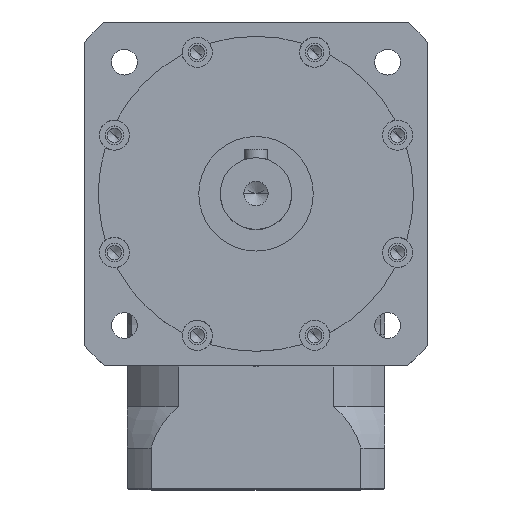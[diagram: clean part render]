
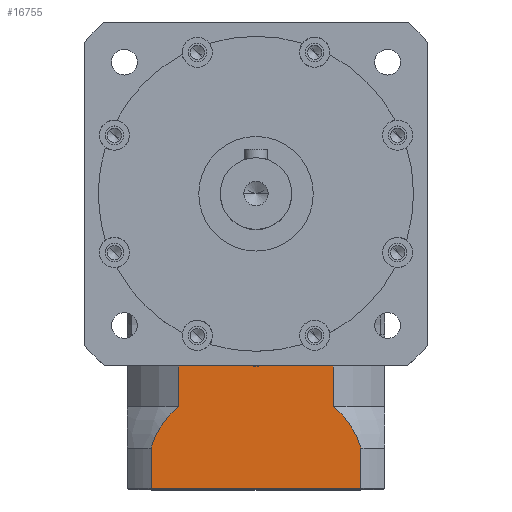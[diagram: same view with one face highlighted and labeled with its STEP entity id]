
A CAD part, top view. The second image highlights one B-rep face of the part: STEP entity #16755.
In plain terms, the highlighted planar face has unit normal (0, 0, 1).
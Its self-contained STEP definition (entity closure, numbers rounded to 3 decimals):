
#874 = EDGE_CURVE ( 'NONE', #33113, #13285, #37348, .T. ) ;
#1661 = LINE ( 'NONE', #38717, #4364 ) ;
#2441 = ORIENTED_EDGE ( 'NONE', *, *, #14095, .T. ) ;
#2799 = CARTESIAN_POINT ( 'NONE',  ( 72.042, -54., -4. ) ) ;
#4077 = ORIENTED_EDGE ( 'NONE', *, *, #15511, .T. ) ;
#4087 = VERTEX_POINT ( 'NONE', #15546 ) ;
#4364 = VECTOR ( 'NONE', #20679, 1000. ) ;
#4694 = VERTEX_POINT ( 'NONE', #35356 ) ;
#4775 = CARTESIAN_POINT ( 'NONE',  ( 60.177, -31.789, -4. ) ) ;
#5127 = VECTOR ( 'NONE', #9799, 1000. ) ;
#5167 = CARTESIAN_POINT ( 'NONE',  ( 54.083, -25., -4. ) ) ;
#5558 = LINE ( 'NONE', #17704, #34843 ) ;
#6041 = DIRECTION ( 'NONE',  ( 0., 0., 1. ) ) ;
#6873 = CARTESIAN_POINT ( 'NONE',  ( -1.166, -25.963, -4. ) ) ;
#6924 = CARTESIAN_POINT ( 'NONE',  ( 63.634, -39.5, -4. ) ) ;
#7209 = CARTESIAN_POINT ( 'NONE',  ( 0., -30.265, -4. ) ) ;
#8009 = CARTESIAN_POINT ( 'NONE',  ( 60.048, -31.593, -4. ) ) ;
#8215 = CARTESIAN_POINT ( 'NONE',  ( 62.519, -36.036, -4. ) ) ;
#9799 = DIRECTION ( 'NONE',  ( 0., 1., 0. ) ) ;
#9831 = ORIENTED_EDGE ( 'NONE', *, *, #22753, .T. ) ;
#13285 = VERTEX_POINT ( 'NONE', #6924 ) ;
#14095 = EDGE_CURVE ( 'NONE', #29703, #4087, #1661, .T. ) ;
#14863 = DIRECTION ( 'NONE',  ( 0., 1., 0. ) ) ;
#14916 = B_SPLINE_CURVE_WITH_KNOTS ( 'NONE', 3,
 ( #34624, #6873, #25899, #16803, #31569, #37869, #22462, #31765, #32393, #35640, #38878, #26101, #20453 ),
 .UNSPECIFIED., .F., .F.,
 ( 4, 1, 1, 1, 1, 1, 2, 2, 4 ),
 ( 0., 0.25, 0.375, 0.437, 0.469, 0.484, 0.492, 0.5, 1. ),
 .UNSPECIFIED. ) ;
#15388 = ORIENTED_EDGE ( 'NONE', *, *, #27347, .T. ) ;
#15511 = EDGE_CURVE ( 'NONE', #27607, #29703, #14916, .T. ) ;
#15546 = CARTESIAN_POINT ( 'NONE',  ( -9.551, -53.5, -4. ) ) ;
#16114 = LINE ( 'NONE', #7209, #22842 ) ;
#16755 = ADVANCED_FACE ( 'NONE', ( #25039 ), #39655, .T. ) ;
#16803 = CARTESIAN_POINT ( 'NONE',  ( -4.42, -29.443, -4. ) ) ;
#16908 = CARTESIAN_POINT ( 'NONE',  ( 63.634, -39.5, -4. ) ) ;
#17319 = CARTESIAN_POINT ( 'NONE',  ( 56.412, -26.923, -4. ) ) ;
#17427 = ORIENTED_EDGE ( 'NONE', *, *, #19986, .T. ) ;
#17704 = CARTESIAN_POINT ( 'NONE',  ( 54.083, -30.265, -4. ) ) ;
#17920 = CARTESIAN_POINT ( 'NONE',  ( 63.634, -53.5, -4. ) ) ;
#19986 = EDGE_CURVE ( 'NONE', #4694, #27233, #20853, .T. ) ;
#20154 = CARTESIAN_POINT ( 'NONE',  ( 60.355, -32.065, -4. ) ) ;
#20367 = CARTESIAN_POINT ( 'NONE',  ( 60.021, -31.553, -4. ) ) ;
#20453 = CARTESIAN_POINT ( 'NONE',  ( -9.551, -39.5, -4. ) ) ;
#20599 = ORIENTED_EDGE ( 'NONE', *, *, #874, .T. ) ;
#20679 = DIRECTION ( 'NONE',  ( 0., -1., 0. ) ) ;
#20764 = LINE ( 'NONE', #17920, #39051 ) ;
#20853 = LINE ( 'NONE', #30559, #33327 ) ;
#21248 = ORIENTED_EDGE ( 'NONE', *, *, #35333, .T. ) ;
#22092 = ORIENTED_EDGE ( 'NONE', *, *, #27480, .T. ) ;
#22462 = CARTESIAN_POINT ( 'NONE',  ( -5.727, -31.232, -4. ) ) ;
#22753 = EDGE_CURVE ( 'NONE', #33431, #4694, #5558, .T. ) ;
#22777 = CARTESIAN_POINT ( 'NONE',  ( 60.702, -32.62, -4. ) ) ;
#22842 = VECTOR ( 'NONE', #35371, 1000. ) ;
#23589 = CARTESIAN_POINT ( 'NONE',  ( 63.257, -38.091, -4. ) ) ;
#23680 = CARTESIAN_POINT ( 'NONE',  ( 54.083, -25., -4. ) ) ;
#25039 = FACE_OUTER_BOUND ( 'NONE', #35977, .T. ) ;
#25823 = B_SPLINE_CURVE_WITH_KNOTS ( 'NONE', 3,
 ( #16908, #23589, #8215, #31885, #22777, #20154, #4775, #29473, #8009, #20367, #32719, #17319, #5167 ),
 .UNSPECIFIED., .F., .F.,
 ( 4, 1, 1, 1, 1, 1, 2, 2, 4 ),
 ( 0., 0.25, 0.375, 0.437, 0.469, 0.484, 0.492, 0.5, 1. ),
 .UNSPECIFIED. ) ;
#25899 = CARTESIAN_POINT ( 'NONE',  ( -2.778, -27.496, -4. ) ) ;
#26101 = CARTESIAN_POINT ( 'NONE',  ( -8.792, -36.668, -4. ) ) ;
#27233 = VERTEX_POINT ( 'NONE', #27850 ) ;
#27347 = EDGE_CURVE ( 'NONE', #27233, #27607, #16114, .T. ) ;
#27480 = EDGE_CURVE ( 'NONE', #4087, #33113, #20764, .T. ) ;
#27607 = VERTEX_POINT ( 'NONE', #39579 ) ;
#27850 = CARTESIAN_POINT ( 'NONE',  ( 0., -10.5, -4. ) ) ;
#29473 = CARTESIAN_POINT ( 'NONE',  ( 60.1, -31.672, -4. ) ) ;
#29703 = VERTEX_POINT ( 'NONE', #34378 ) ;
#30559 = CARTESIAN_POINT ( 'NONE',  ( 0., -10.5, -4. ) ) ;
#31569 = CARTESIAN_POINT ( 'NONE',  ( -5.182, -30.455, -4. ) ) ;
#31765 = CARTESIAN_POINT ( 'NONE',  ( -5.803, -31.344, -4. ) ) ;
#31885 = CARTESIAN_POINT ( 'NONE',  ( 61.357, -33.742, -4. ) ) ;
#32393 = CARTESIAN_POINT ( 'NONE',  ( -5.854, -31.419, -4. ) ) ;
#32719 = CARTESIAN_POINT ( 'NONE',  ( 58.383, -29.095, -4. ) ) ;
#33113 = VERTEX_POINT ( 'NONE', #36277 ) ;
#33327 = VECTOR ( 'NONE', #36071, 1000. ) ;
#33393 = DIRECTION ( 'NONE',  ( 1., 0., 0. ) ) ;
#33431 = VERTEX_POINT ( 'NONE', #23680 ) ;
#34378 = CARTESIAN_POINT ( 'NONE',  ( -9.551, -39.5, -4. ) ) ;
#34503 = CARTESIAN_POINT ( 'NONE',  ( 63.634, -30.265, -4. ) ) ;
#34624 = CARTESIAN_POINT ( 'NONE',  ( 0., -25., -4. ) ) ;
#34821 = AXIS2_PLACEMENT_3D ( 'NONE', #2799, #6041, #33393 ) ;
#34843 = VECTOR ( 'NONE', #14863, 1000. ) ;
#35333 = EDGE_CURVE ( 'NONE', #13285, #33431, #25823, .T. ) ;
#35356 = CARTESIAN_POINT ( 'NONE',  ( 54.083, -10.5, -4. ) ) ;
#35371 = DIRECTION ( 'NONE',  ( 0., -1., 0. ) ) ;
#35640 = CARTESIAN_POINT ( 'NONE',  ( -5.878, -31.455, -4. ) ) ;
#35977 = EDGE_LOOP ( 'NONE', ( #9831, #17427, #15388, #4077, #2441, #22092, #20599, #21248 ) ) ;
#36071 = DIRECTION ( 'NONE',  ( -1., 0., 0. ) ) ;
#36277 = CARTESIAN_POINT ( 'NONE',  ( 63.634, -53.5, -4. ) ) ;
#37348 = LINE ( 'NONE', #34503, #5127 ) ;
#37869 = CARTESIAN_POINT ( 'NONE',  ( -5.548, -30.971, -4. ) ) ;
#38717 = CARTESIAN_POINT ( 'NONE',  ( -9.551, -30.265, -4. ) ) ;
#38878 = CARTESIAN_POINT ( 'NONE',  ( -7.576, -33.999, -4. ) ) ;
#39051 = VECTOR ( 'NONE', #39395, 1000. ) ;
#39395 = DIRECTION ( 'NONE',  ( 1., 0., 0. ) ) ;
#39579 = CARTESIAN_POINT ( 'NONE',  ( 0., -25., -4. ) ) ;
#39655 = PLANE ( 'NONE',  #34821 ) ;
